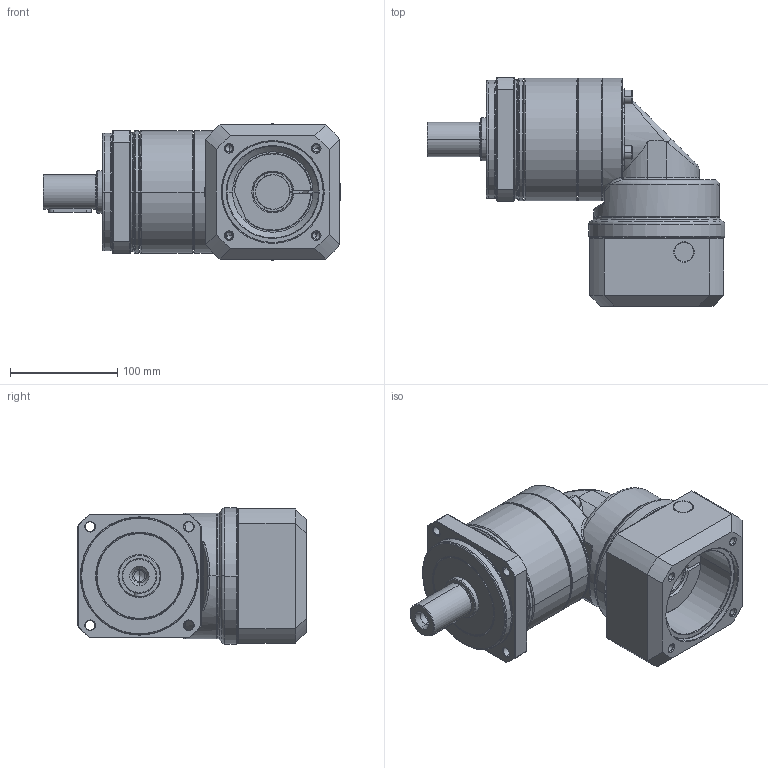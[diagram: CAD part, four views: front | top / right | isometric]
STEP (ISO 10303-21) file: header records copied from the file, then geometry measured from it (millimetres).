
FILE_DESCRIPTION((''),'2;1');
FILE_NAME('PA2R-115_1ST_32-P0411700101_ASM','2016-05-12T',('d01943'),(''),'PRO/ENGINEER BY PARAMETRIC TECHNOLOGY CORPORATION, 2008410','PRO/ENGINEER BY PARAMETRIC TECHNOLOGY CORPORATION, 2008410','');
FILE_SCHEMA(('CONFIG_CONTROL_DESIGN'));
Length unit declared in the file: millimetre
Products named in the file (12): P1327410001; P0250400001; P0350400601; P1349400001; P1017400001; P0713403001; P0503700010; P1350400301; P0411700101; P1702600001; 2111B108035; PA2R-115_1ST_32-P0411700101_ASM
Assembly tree (14 placements, depth 2):
  PA2R-115_1ST_32-P0411700101_ASM
    P1327410001
    P0250400001
    P0350400601
    P1349400001
    P1017400001
    P0713403001
    P0503700010
    P1350400301
    P0411700101
    P1702600001
    2111B108035  x4
Bounding box: 277.5 x 213 x 127 mm (x, y, z)
Volume: 2114990.3 mm3; surface area: 376346.3 mm2
Topology: 14 solids, 14 shells, 723 faces, 1599 edges, 924 vertices
Faces by surface type: cylinder 212, cone 210, plane 167, torus 102, bspline 32
Entity records: 23247 total; most frequent: CARTESIAN_POINT 9251, DIRECTION 3084, ORIENTED_EDGE 2722, EDGE_CURVE 1361, AXIS2_PLACEMENT_3D 1298, VERTEX_POINT 804, EDGE_LOOP 703, CIRCLE 680
